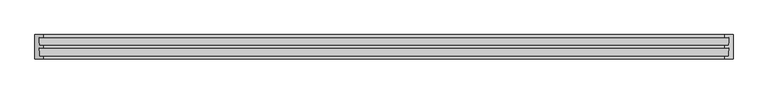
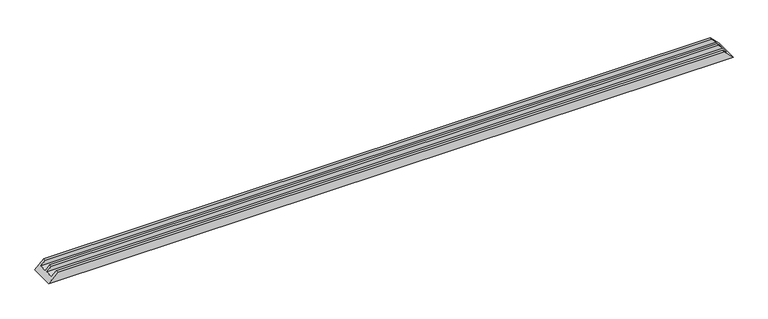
"""IFC4 building model written with IfcOpenShell, lengths in millimetres: proxy geometry, Weiku - Montante - Caixilho triplo 02.2.01.003 : Weiku - Montante - Caixilho triplo 02.2.01.003."""

from ifc_helpers import new_model, si_unit, origin, place, context, project, spatial, faceted_brep, source, transform, mapped, element, save


def generic_models_142ce8a2(model_context):
    return source(origin(), model_context, "Body", "Brep", [
        faceted_brep([(-1971.0, -15.0, 26.0), (1971.0, -15.0, 26.0), (1945.0, -15.0, 52.0), (-1945.0, -15.0, 52.0), (-1973.2229744, -62.0, 23.7770256), (1973.2229744, -62.0, 23.7770256), (-1945.0, -62.0, 52.0), (1945.0, -62.0, 52.0), (-1945.0, -77.0, 52.0), (1945.0, -77.0, 52.0), (-1997.0, -139.0, 0.0), (-1997.0, 0.0, 0.0), (1997.0, 0.0, 0.0), (1997.0, -139.0, 0.0), (-1945.0, 0.0, 52.0), (1945.0, 0.0, 52.0), (-1945.0, -139.0, 52.0), (-1945.0, -124.0, 52.0), (-1973.2229744, -124.0, 23.7770256), (-1971.0, -77.0, 26.0), (1971.0, -77.0, 26.0), (1973.2229744, -124.0, 23.7770256), (1945.0, -124.0, 52.0), (1945.0, -139.0, 52.0)], [[[0, 1, 2, 3]], [[4, 5, 1, 0]], [[6, 7, 5, 4]], [[8, 9, 7, 6]], [[10, 11, 12, 13]], [[11, 14, 15, 12]], [[3, 2, 15, 14]], [[3, 14, 11, 10, 16, 17, 18, 19, 8, 6, 4, 0]], [[1, 5, 7, 9, 20, 21, 22, 23, 13, 12, 15, 2]], [[19, 20, 9, 8]], [[18, 21, 20, 19]], [[17, 22, 21, 18]], [[16, 23, 22, 17]], [[13, 23, 16, 10]]]),
    ])


if __name__ == "__main__":
    model = new_model("IFC4")
    model_context = context("Model", 3, world=origin())
    ifc_project = project(units=[si_unit("LENGTHUNIT", "METRE", prefix="MILLI")], contexts=[model_context])
    site = spatial("IfcSite", under=ifc_project)
    building = spatial("IfcBuilding", under=site)
    placement = place(None, origin())
    generic_models_shape = generic_models_142ce8a2(model_context)
    element("IfcBuildingElementProxy", 1, Name="Weiku - Montante - Caixilho triplo 02.2.01.003 : Weiku - Montante - Caixilho triplo 02.2.01.003", ObjectType="Weiku - Montante - Caixilho triplo 02.2.01.003 : Weiku - Montante - Caixilho triplo 02.2.01.003", at=placement, inside=building, context=model_context, shape_type="MappedRepresentation", body=[
        mapped(generic_models_shape, transform((0.0, 0.0, 0.0), x_axis=(1.0, 0.0, 0.0), y_axis=(0.0, 1.0, 0.0), z_axis=(0.0, 0.0, 1.0))),
    ])
    save(model, "model.ifc")
